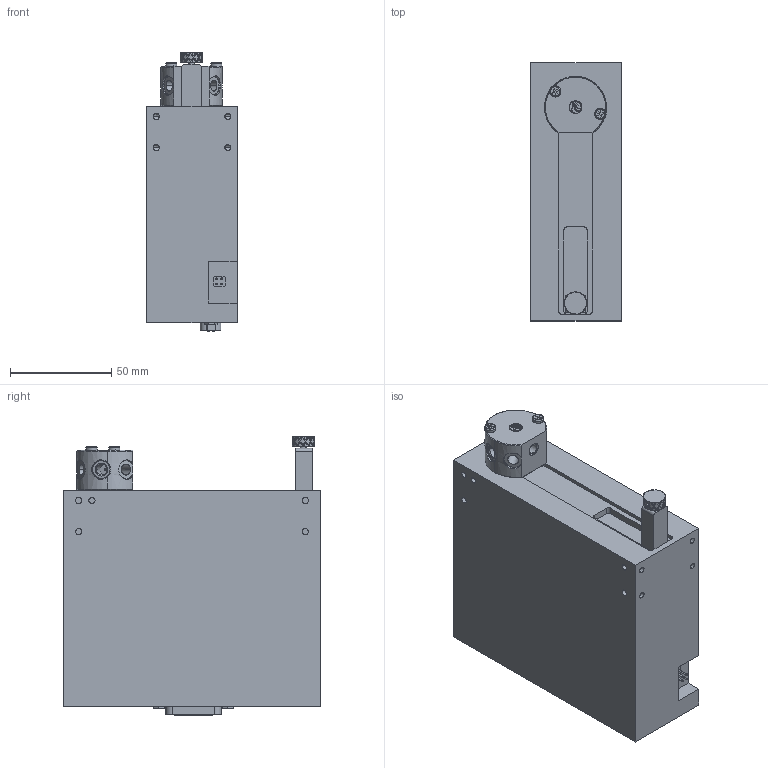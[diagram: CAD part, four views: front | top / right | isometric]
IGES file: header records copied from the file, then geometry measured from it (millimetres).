
Start section: SolidWorks IGES file using analytic representation for surfaces
Global section: file name: R:\ORIG\Model\Assembly Web\MOD91018\MOD91018 RA.IGS; native system: SolidWorks 2015; preprocessor: SolidWorks 2015; author: WLG2015; date: 161005.123228; units: inch
Bounding box: 44.45 x 127 x 137.39 mm (x, y, z)
Surface area: 64550.1 mm2 (no closed solid volume)
Topology: 0 solids, 0 shells, 1142 faces, 12021 edges, 12019 vertices
Faces by surface type: bspline 798, revolution 344
